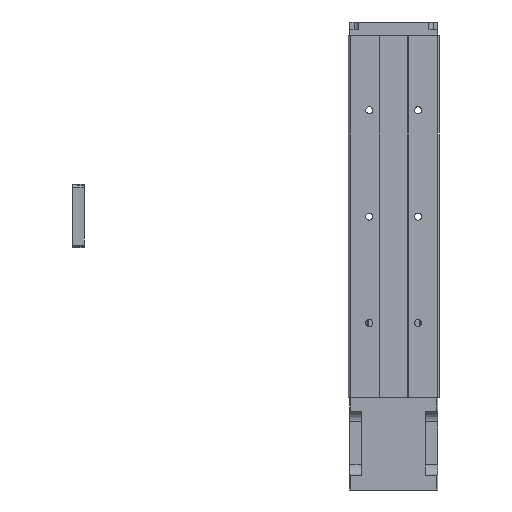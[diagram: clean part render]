
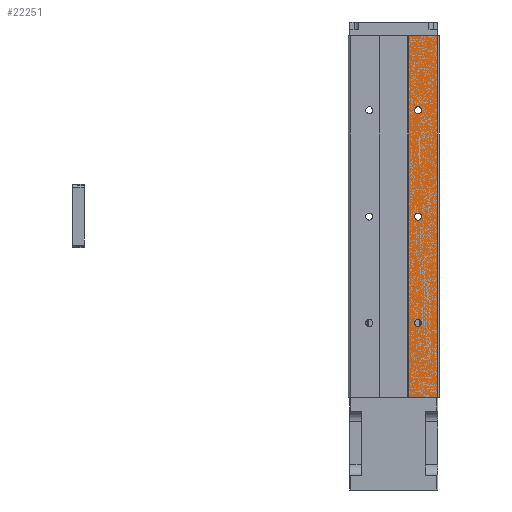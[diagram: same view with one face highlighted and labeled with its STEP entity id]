
A CAD part, front view. The second image highlights one B-rep face of the part: STEP entity #22251.
In plain terms, the highlighted planar face has unit normal (0, -1, 0).
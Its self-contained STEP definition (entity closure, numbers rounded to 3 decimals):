
#13693=CIRCLE('',#44537,3.3);
#13701=CIRCLE('',#44553,3.3);
#13704=CIRCLE('',#44559,3.3);
#15351=PLANE('',#44560);
#17663=LINE('',#65566,#19961);
#17664=LINE('',#65569,#19962);
#17665=LINE('',#65571,#19963);
#17666=LINE('',#65573,#19964);
#19961=VECTOR('',#48402,1.);
#19962=VECTOR('',#48403,1.);
#19963=VECTOR('',#48404,1.);
#19964=VECTOR('',#48405,1.);
#22251=ADVANCED_FACE('',(#24748,#24749,#24750,#24751),#15351,.F.);
#24748=FACE_BOUND('',#26323,.T.);
#24749=FACE_BOUND('',#26324,.T.);
#24750=FACE_BOUND('',#26325,.T.);
#24751=FACE_BOUND('',#26326,.T.);
#26323=EDGE_LOOP('',(#29794));
#26324=EDGE_LOOP('',(#29795));
#26325=EDGE_LOOP('',(#29796,#29797,#29798,#29799));
#26326=EDGE_LOOP('',(#29800));
#29794=ORIENTED_EDGE('',*,*,#40501,.F.);
#29795=ORIENTED_EDGE('',*,*,#40522,.F.);
#29796=ORIENTED_EDGE('',*,*,#40528,.F.);
#29797=ORIENTED_EDGE('',*,*,#40529,.T.);
#29798=ORIENTED_EDGE('',*,*,#40530,.T.);
#29799=ORIENTED_EDGE('',*,*,#40531,.T.);
#29800=ORIENTED_EDGE('',*,*,#40532,.F.);
#37321=VERTEX_POINT('',#65428);
#37341=VERTEX_POINT('',#65531);
#37347=VERTEX_POINT('',#65567);
#37348=VERTEX_POINT('',#65568);
#37349=VERTEX_POINT('',#65570);
#37350=VERTEX_POINT('',#65572);
#37351=VERTEX_POINT('',#65575);
#40501=EDGE_CURVE('',#37321,#37321,#13693,.T.);
#40522=EDGE_CURVE('',#37341,#37341,#13701,.T.);
#40528=EDGE_CURVE('',#37347,#37348,#17663,.T.);
#40529=EDGE_CURVE('',#37347,#37349,#17664,.T.);
#40530=EDGE_CURVE('',#37349,#37350,#17665,.T.);
#40531=EDGE_CURVE('',#37350,#37348,#17666,.T.);
#40532=EDGE_CURVE('',#37351,#37351,#13704,.T.);
#44537=AXIS2_PLACEMENT_3D('',#65427,#48355,#48356);
#44553=AXIS2_PLACEMENT_3D('',#65530,#48390,#48391);
#44559=AXIS2_PLACEMENT_3D('',#65574,#48406,#48407);
#44560=AXIS2_PLACEMENT_3D('',#65576,#48408,#48409);
#48355=DIRECTION('',(0.,-1.,0.));
#48356=DIRECTION('',(0.,0.,1.));
#48390=DIRECTION('',(0.,-1.,0.));
#48391=DIRECTION('',(0.,0.,1.));
#48402=DIRECTION('',(0.,0.,-1.));
#48403=DIRECTION('',(-1.,0.,0.));
#48404=DIRECTION('',(0.,0.,-1.));
#48405=DIRECTION('',(1.,0.,0.));
#48406=DIRECTION('',(0.,-1.,0.));
#48407=DIRECTION('',(0.,0.,1.));
#48408=DIRECTION('',(0.,1.,0.));
#48409=DIRECTION('',(0.,0.,1.));
#65427=CARTESIAN_POINT('',(772.947,-32.,99.5));
#65428=CARTESIAN_POINT('',(772.947,-32.,102.8));
#65530=CARTESIAN_POINT('',(772.947,-32.,-0.5));
#65531=CARTESIAN_POINT('',(772.947,-32.,2.8));
#65566=CARTESIAN_POINT('',(791.,-32.,129.5));
#65567=CARTESIAN_POINT('',(791.,-32.,169.5));
#65568=CARTESIAN_POINT('',(791.,-32.,-170.5));
#65569=CARTESIAN_POINT('',(770.,-32.,169.5));
#65570=CARTESIAN_POINT('',(763.5,-32.,169.5));
#65571=CARTESIAN_POINT('',(763.5,-32.,129.5));
#65572=CARTESIAN_POINT('',(763.5,-32.,-170.5));
#65573=CARTESIAN_POINT('',(770.,-32.,-170.5));
#65574=CARTESIAN_POINT('',(772.947,-32.,-100.5));
#65575=CARTESIAN_POINT('',(772.947,-32.,-97.2));
#65576=CARTESIAN_POINT('',(770.,-32.,129.5));
